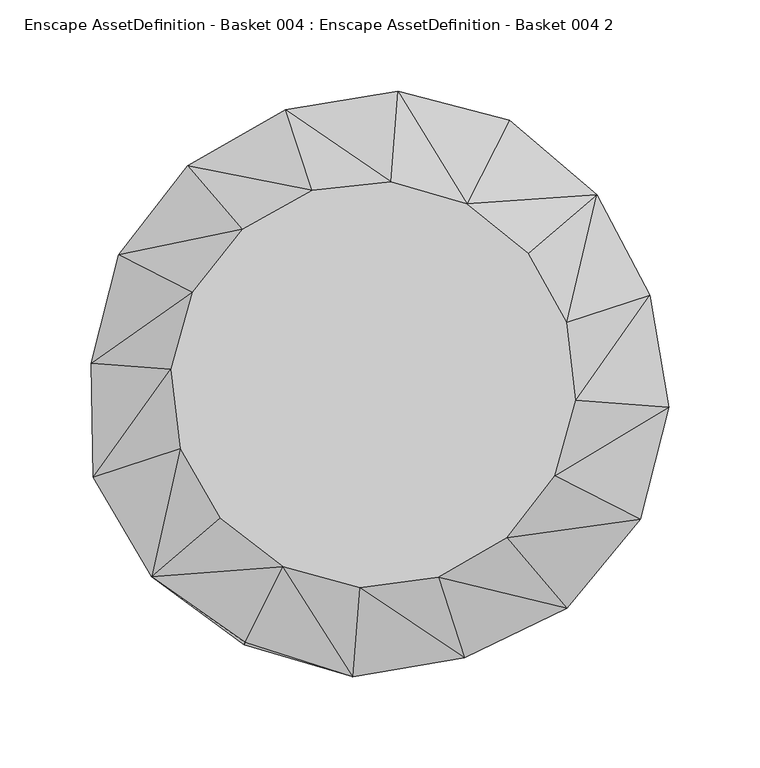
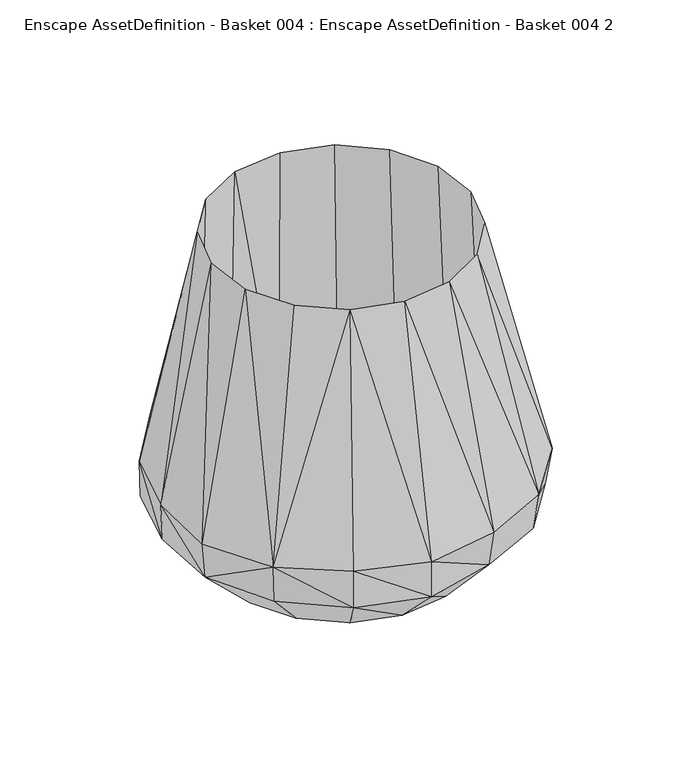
"""IFC4 building model written with IfcOpenShell, lengths in millimetres: geographic element geometry, Enscape AssetDefinition - Basket 004 : Enscape AssetDefinition - Basket 004 2."""

import ifcopenshell
import ifcopenshell.guid

model = None  # the IFC model being written
_history = None  # IfcOwnerHistory: only IFC2X3 demands one
_inside = {}  # id of a spatial element -> (the spatial element, [elements in it])
_under = {}  # id of a project, library or spatial element -> (it, [spatial elements below it])
_declared = {}  # id of a project -> (the project, [libraries it declares])
_typed = {}  # id of a type object -> (the type object, [elements of that type])
_made_of = {}  # id of a material, layer set ... -> (it, [elements and type objects made of it])


def new_model(schema):
    """Start an empty IFC model of exactly this schema.

    Asked for "IFC4X3", IfcOpenShell would pick the latest addendum, in which some entities
    have other attributes; the version numbers below select the first issue.
    IFC2X3 requires an IfcOwnerHistory on every rooted entity: one is made here for all.
    """
    global model, _history
    if schema == "IFC4X3":
        model = ifcopenshell.file(schema_version=(4, 3, 0, 0))
    else:
        model = ifcopenshell.file(schema=schema)
    _inside.clear()
    _under.clear()
    _declared.clear()
    _typed.clear()
    _made_of.clear()
    _history = None
    if model.schema == "IFC2X3":
        org = make("IfcOrganization", Name="unknown")
        user = make(
            "IfcPersonAndOrganization",
            ThePerson=make("IfcPerson", FamilyName="unknown"),
            TheOrganization=org,
        )
        app = make(
            "IfcApplication",
            ApplicationDeveloper=org,
            Version="unknown",
            ApplicationFullName="unknown",
            ApplicationIdentifier="unknown",
        )
        _history = make(
            "IfcOwnerHistory",
            OwningUser=user,
            OwningApplication=app,
            ChangeAction="ADDED",
            CreationDate=0,
        )
    return model


def make(cls, **values):
    """One entity of the class cls with the attributes given. An attribute that is None is left unset."""
    return model.create_entity(
        cls, **{name: value for name, value in values.items() if value is not None}
    )


def rooted(cls, **values):
    """An entity with a GlobalId (a new one), such as an element, a storey or a relation."""
    return make(cls, GlobalId=ifcopenshell.guid.new(), OwnerHistory=_history, **values)


def si_unit(unit_type, name, prefix=None):
    """IfcSIUnit, for example si_unit("LENGTHUNIT", "METRE", prefix="MILLI")."""
    return make("IfcSIUnit", UnitType=unit_type, Prefix=prefix, Name=name)


def assignment(units):
    """IfcUnitAssignment: the units of a project."""
    return None if units is None else make("IfcUnitAssignment", Units=units)


def point(xyz):
    """IfcCartesianPoint."""
    return None if xyz is None else make("IfcCartesianPoint", Coordinates=xyz)


def direction(xyz):
    """IfcDirection."""
    return None if xyz is None else make("IfcDirection", DirectionRatios=xyz)


def frame(location, z_axis=None, x_axis=None):
    """IfcAxis2Placement3D, a coordinate frame: its origin and axes. An axis left out is left unset."""
    return make(
        "IfcAxis2Placement3D",
        Location=point(location),
        Axis=direction(z_axis),
        RefDirection=direction(x_axis),
    )


def origin():
    """The frame at (0, 0, 0) with its axes left unset."""
    return frame((0.0, 0.0, 0.0))


def place(relative_to, where):
    """IfcLocalPlacement: puts the frame where relative to a parent placement (None: the world)."""
    return make(
        "IfcLocalPlacement", PlacementRelTo=relative_to, RelativePlacement=where
    )


def context(
    kind, dimensions, precision=None, world=None, true_north=None, identifier=None
):
    """IfcGeometricRepresentationContext, for example the 3D "Model" context."""
    return make(
        "IfcGeometricRepresentationContext",
        ContextIdentifier=identifier,
        ContextType=kind,
        CoordinateSpaceDimension=dimensions,
        Precision=precision,
        WorldCoordinateSystem=world,
        TrueNorth=true_north,
    )


def project(units=None, contexts=None):
    """IfcProject with its units and contexts."""
    return rooted(
        "IfcProject",
        Name="project",
        RepresentationContexts=contexts,
        UnitsInContext=assignment(units),
    )


def spatial(cls, under=None, at=None, **own):
    """A site, building, storey or space (cls), placed at a placement, below another one or the project."""
    s = rooted(cls, ObjectPlacement=at, **own)
    if under is not None:
        _under.setdefault(under.id(), (under, []))[1].append(s)
    return s


def point_list(points):
    """IfcCartesianPointList2D or 3D."""
    cls = (
        "IfcCartesianPointList2D" if len(points[0]) == 2 else "IfcCartesianPointList3D"
    )
    return make(cls, CoordList=points)


def triangles(points, corners, closed=None, point_numbers=None):
    """IfcTriangulatedFaceSet: each triangle names its three corners, points numbered from 1."""
    return make(
        "IfcTriangulatedFaceSet",
        Coordinates=point_list(points),
        Closed=closed,
        CoordIndex=corners,
        PnIndex=point_numbers,
    )


def shape(context_of_items, identifier, shape_type, items):
    """IfcShapeRepresentation: the items that make up one representation, for example the "Body"."""
    return make(
        "IfcShapeRepresentation",
        ContextOfItems=context_of_items,
        RepresentationIdentifier=identifier,
        RepresentationType=shape_type,
        Items=items,
    )


def source(mapping_origin, context_of_items, identifier, shape_type, items):
    """IfcRepresentationMap: a shape defined once, which mapped items show again and again."""
    return make(
        "IfcRepresentationMap",
        MappingOrigin=mapping_origin,
        MappedRepresentation=shape(context_of_items, identifier, shape_type, items),
    )


def transform(
    local_origin,
    x_axis=None,
    y_axis=None,
    z_axis=None,
    scale=None,
    scale2=None,
    scale3=None,
    uniform=True,
):
    """IfcCartesianTransformationOperator3D, or its non-uniform kind. x_axis, y_axis, z_axis: its Axis1, 2, 3."""
    if uniform:
        return make(
            "IfcCartesianTransformationOperator3D",
            Axis1=direction(x_axis),
            Axis2=direction(y_axis),
            LocalOrigin=point(local_origin),
            Scale=scale,
            Axis3=direction(z_axis),
        )
    return make(
        "IfcCartesianTransformationOperator3DnonUniform",
        Axis1=direction(x_axis),
        Axis2=direction(y_axis),
        LocalOrigin=point(local_origin),
        Scale=scale,
        Axis3=direction(z_axis),
        Scale2=scale2,
        Scale3=scale3,
    )


def mapped(mapping_source, mapping_target):
    """IfcMappedItem: shows the shape of a source again, moved by a transform."""
    return make(
        "IfcMappedItem", MappingSource=mapping_source, MappingTarget=mapping_target
    )


def made_of(thing, what):
    """Note that an element or type object is made of a material, layer set ...; save() writes the relation."""
    if what is not None:
        _made_of.setdefault(what.id(), (what, []))[1].append(thing)
    return thing


def element(
    cls,
    number,
    at=None,
    inside=None,
    cuts=None,
    type_object=None,
    material=None,
    context=None,
    identifier="Body",
    shape_type=None,
    held_by="IfcProductDefinitionShape",
    body=None,
    shapes=None,
    **own,
):
    """One element of the class cls, such as IfcWall. Its Tag is "e" and its number.

    at: its placement. inside: the storey or other place that contains it. cuts: it is an
    opening in that element (IfcRelVoidsElement). A single representation is given by context,
    identifier, shape_type and body (its items); several are given by shapes. held_by: the class
    of the entity that holds the representations. save() writes the other relations.
    """
    e = rooted(cls, Tag="e%d" % number, ObjectPlacement=at, **own)
    if body is not None:
        shapes = [shape(context, identifier, shape_type, body)]
    if shapes is not None:
        e.Representation = make(held_by, Representations=shapes)
    if inside is not None:
        _inside.setdefault(inside.id(), (inside, []))[1].append(e)
    if cuts is not None:
        rooted(
            "IfcRelVoidsElement", RelatingBuildingElement=cuts, RelatedOpeningElement=e
        )
    if type_object is not None:
        _typed.setdefault(type_object.id(), (type_object, []))[1].append(e)
    return made_of(e, material)


def aggregate(whole, parts):
    """IfcRelAggregates: a whole, such as a stair, and the parts it consists of."""
    return rooted("IfcRelAggregates", RelatingObject=whole, RelatedObjects=parts)


def save(model, path):
    """Write the relations noted so far, then the file.

    IfcRelAggregates (storeys below a building ...), IfcRelContainedInSpatialStructure (elements
    in a storey), IfcRelDefinesByType, IfcRelAssociatesMaterial and IfcRelDeclares: one each for
    every whole, place, type object, material and project.
    """
    for whole, parts in _under.values():
        aggregate(whole, parts)
    for where, things in _inside.values():
        rooted(
            "IfcRelContainedInSpatialStructure",
            RelatedElements=things,
            RelatingStructure=where,
        )
    for kind, things in _typed.values():
        rooted("IfcRelDefinesByType", RelatedObjects=things, RelatingType=kind)
    for what, things in _made_of.values():
        rooted("IfcRelAssociatesMaterial", RelatedObjects=things, RelatingMaterial=what)
    for by, libraries in _declared.values():
        rooted("IfcRelDeclares", RelatingContext=by, RelatedDefinitions=libraries)
    model.write(path)


def enscape_assetdefinition_basket_004_enscape_assetdefinition_e0a11305(model_context):
    return source(origin(), model_context, "Body", "Tessellation", [
        triangles([(0.0, 0.0, 0.0), (107.4083058, -8.2172645, 0.0), (96.0880847, -48.6952926, 0.0), (70.1386785, -81.7598986, 0.0), (140.6195781, -71.2630875, 50.8966163), (105.2865876, -122.7316892, 84.1532845), (102.2143641, -119.1496495, 50.8966163), (145.6780084, -73.82688, 84.1532845), (72.1675018, -84.0890261, 300.0000023), (49.0298152, -149.7859426, 84.1532845), (98.6337233, -50.020834, 300.0000023), (40.5813892, -114.7211498, 39.7174749), (-8.5077951, -111.29833, 300.0000023), (34.6115456, -105.6476484, 300.0000023), (-5.7163282, -120.7908647, 39.7174749), (81.2507727, -91.4109629, 39.7174749), (161.171812, -12.3307858, 84.1532845), (110.2235046, -8.4700822, 300.0000023), (109.8638427, -54.5792312, 39.7174749), (122.3880873, -9.4939234, 39.7174749), (105.196495, 34.4250744, 300.0000023), (150.6589271, 49.3154582, 84.1532845), (116.9580863, 36.5523746, 39.7174749), (121.786062, 104.4757632, 84.1532845), (158.2169233, -12.1045085, 50.8966163), (148.4624951, 48.5968157, 50.8966163), (118.6998859, 101.8281595, 50.8966163), (71.5019356, 141.0909883, 50.8966163), (102.3770904, 33.5115787, 0.0), (81.7598986, 70.1386785, 0.0), (48.6952926, 96.0880847, 0.0), (8.2172645, 107.4083058, 0.0), (73.6983767, 145.4244992, 84.1532845), (-33.5115787, 102.3770904, 0.0), (12.1394275, 158.6736541, 50.8966163), (12.3440549, 161.3464016, 84.1532845), (-70.1386785, 81.7598986, 0.0), (-48.9313474, 149.4849254, 50.8966163), (-96.0880847, 48.6952926, 0.0), (-101.9957728, 118.8954226, 50.8966163), (-49.500535, 151.2246357, 84.1532845), (8.5559844, 111.5420742, 300.0000023), (50.3246354, 99.3858849, 300.0000023), (-34.9139458, 106.7587906, 300.0000023), (-103.2123774, 120.3138499, 84.1532845), (-73.3533669, 85.546577, 300.0000023), (-34.5284361, 114.6806363, 39.7174749), (-75.8745611, 91.8362821, 39.7174749), (-100.7714926, 50.9364258, 300.0000023), (-141.0916877, 71.5026305, 84.1532845), (-105.2670303, 54.9109652, 39.7174749), (-154.7480217, 11.8391188, 50.8966163), (-151.6317874, -49.6339299, 50.8966163), (-156.2809768, 11.9564491, 84.1532845), (-112.6273641, 8.6307118, 300.0000023), (-107.233689, -35.0536244, 300.0000023), (-118.3227468, 8.6509658, 39.7174749), (-85.403399, -73.2500075, 300.0000023), (-155.0573959, -50.7555411, 84.1532845), (-122.8664738, -105.4025235, 84.1532845), (-121.272049, -104.0343748, 50.8966163), (-72.2680679, -142.6023059, 50.8966163), (-88.7745322, -79.8463163, 39.7174749), (-112.4527745, -38.5455805, 39.7174749), (-71.6143742, -141.3123774, 84.1532845), (-12.2672325, -160.3393228, 84.1532845), (-50.7143418, -99.9662546, 300.0000023), (-51.2954019, -108.6172073, 39.7174749), (-48.6952926, -96.0880847, 0.0), (-8.2172645, -107.4083058, 0.0), (47.4940578, -145.0941596, 50.8966163), (-12.2644392, -160.3058038, 50.8966163), (12.4432267, 119.9039003, 39.7174749), (57.8665533, 106.6659002, 39.7174749), (94.4384852, 77.3097524, 39.7174749), (84.2056614, 72.2988028, 300.0000023), (33.5115787, -102.3770904, 0.0), (-102.3770904, -33.5115787, 0.0), (-81.7598986, -70.1386785, 0.0), (-107.4083058, 8.2172645, 0.0), (-140.2920181, 71.097568, 50.8966163)], [[81, 80, 52], [81, 39, 80], [52, 78, 53], [52, 80, 78], [53, 79, 61], [53, 78, 79], [61, 79, 69], [39, 1, 80], [79, 1, 69], [78, 1, 79], [80, 1, 78], [69, 1, 70], [70, 1, 77], [77, 1, 4], [71, 77, 4], [23, 76, 75], [75, 43, 74], [75, 76, 43], [43, 76, 24], [75, 74, 73], [73, 23, 75], [43, 73, 74], [73, 68, 15], [68, 13, 15], [10, 13, 66], [66, 71, 10], [66, 72, 71], [72, 77, 71], [72, 70, 77], [62, 70, 72], [62, 69, 70], [61, 69, 62], [65, 72, 66], [65, 62, 72], [68, 67, 13], [67, 66, 13], [67, 65, 66], [73, 63, 68], [63, 67, 68], [73, 64, 63], [63, 58, 67], [64, 58, 63], [60, 62, 65], [60, 61, 62], [60, 53, 61], [67, 60, 65], [67, 58, 60], [60, 59, 53], [64, 56, 58], [60, 56, 59], [60, 58, 56], [73, 57, 64], [57, 56, 64], [73, 51, 57], [51, 55, 57], [57, 55, 56], [59, 56, 55], [59, 55, 54], [54, 53, 59], [54, 52, 53], [50, 52, 54], [50, 81, 52], [51, 49, 55], [54, 49, 50], [54, 55, 49], [73, 48, 51], [48, 49, 51], [73, 47, 48], [48, 46, 49], [50, 49, 46], [47, 46, 48], [50, 46, 45], [45, 81, 50], [45, 46, 44], [73, 44, 47], [47, 44, 46], [43, 42, 73], [73, 42, 44], [41, 44, 42], [45, 44, 41], [41, 40, 45], [45, 40, 81], [40, 39, 81], [40, 37, 39], [37, 1, 39], [34, 1, 37], [41, 38, 40], [38, 37, 40], [38, 34, 37], [36, 42, 43], [41, 42, 36], [36, 38, 41], [36, 43, 33], [43, 24, 33], [34, 38, 35], [35, 36, 33], [36, 35, 38], [34, 35, 32], [32, 1, 34], [35, 33, 28], [32, 35, 28], [24, 28, 33], [32, 31, 1], [32, 28, 31], [30, 1, 31], [29, 1, 30], [27, 31, 28], [27, 30, 31], [24, 27, 28], [26, 30, 27], [26, 29, 30], [25, 29, 26], [17, 25, 26], [22, 27, 24], [22, 26, 27], [17, 26, 22], [23, 21, 76], [24, 21, 22], [24, 76, 21], [73, 20, 23], [20, 21, 23], [20, 18, 21], [22, 18, 17], [22, 21, 18], [73, 19, 20], [19, 18, 20], [19, 11, 18], [17, 18, 11], [73, 16, 19], [16, 11, 19], [73, 12, 16], [73, 15, 12], [15, 14, 12], [15, 13, 14], [10, 14, 13], [12, 9, 16], [12, 14, 9], [16, 9, 11], [8, 11, 9], [17, 11, 8], [8, 25, 17], [6, 14, 10], [6, 9, 14], [8, 9, 6], [10, 7, 6], [10, 71, 7], [71, 4, 7], [6, 5, 8], [6, 7, 5], [8, 5, 25], [25, 2, 29], [5, 2, 25], [2, 1, 29], [5, 3, 2], [7, 3, 5], [7, 4, 3], [4, 1, 3], [3, 1, 2]]),
    ])


if __name__ == "__main__":
    model = new_model("IFC4")
    model_context = context("Model", 3, world=origin())
    ifc_project = project(units=[si_unit("LENGTHUNIT", "METRE", prefix="MILLI")], contexts=[model_context])
    site = spatial("IfcSite", under=ifc_project)
    building = spatial("IfcBuilding", under=site)
    placement = place(None, origin())
    enscape_assetdefinition_basket_004_enscape_assetdefinition_shape = enscape_assetdefinition_basket_004_enscape_assetdefinition_e0a11305(model_context)
    element("IfcGeographicElement", 1, ObjectType="Enscape AssetDefinition - Basket 004 : Enscape AssetDefinition - Basket 004 2", at=placement, inside=building, context=model_context, shape_type="MappedRepresentation", body=[
        mapped(enscape_assetdefinition_basket_004_enscape_assetdefinition_shape, transform((0.0, 0.0, 0.0), x_axis=(1.0, 0.0, 0.0), y_axis=(0.0, 1.0, 0.0), z_axis=(0.0, 0.0, 1.0))),
    ])
    save(model, "model.ifc")
